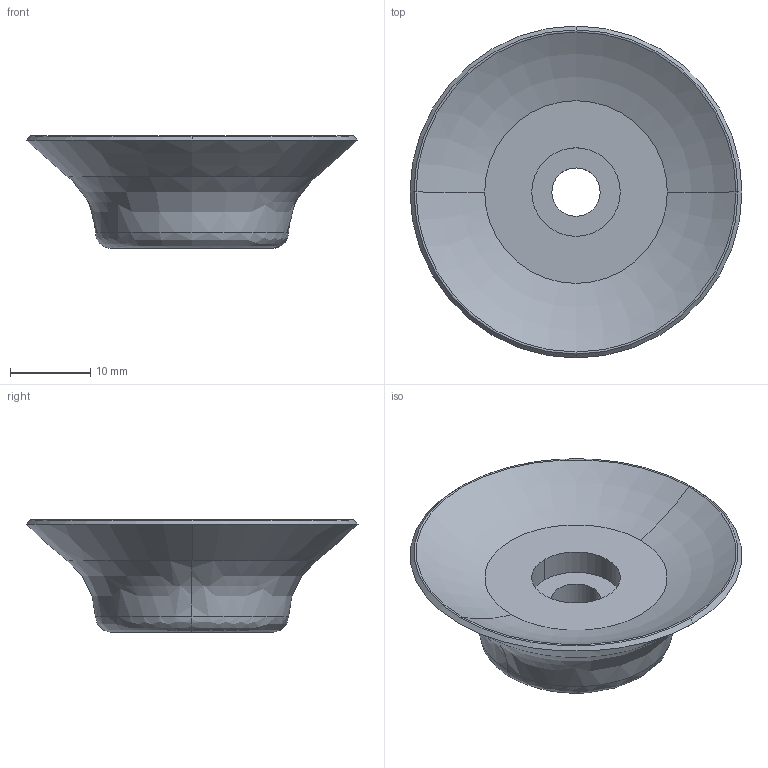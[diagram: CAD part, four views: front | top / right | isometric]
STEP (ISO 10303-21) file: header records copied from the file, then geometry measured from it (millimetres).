
FILE_DESCRIPTION (( 'STEP AP214' ), '1' );
FILE_NAME ('VS-PG40.STEP', '2019-11-13T07:51:31', ( '微软用户' ), ( '微软中国' ), 'SwSTEP 2.0', 'SolidWorks 2016', '' );
FILE_SCHEMA (( 'AUTOMOTIVE_DESIGN' ));
Length unit declared in the file: millimetre
Products named in the file (1): VS-PG40
Bounding box: 41.26 x 41.26 x 14 mm (x, y, z)
Volume: 6227.4 mm3; surface area: 3622.3 mm2
Topology: 1 solids, 1 shells, 19 faces, 42 edges, 26 vertices
Faces by surface type: bspline 8, cylinder 4, plane 3, torus 2, cone 2
Entity records: 660 total; most frequent: CARTESIAN_POINT 238, ORIENTED_EDGE 84, DIRECTION 82, EDGE_CURVE 42, AXIS2_PLACEMENT_3D 38, CIRCLE 26, VERTEX_POINT 26, EDGE_LOOP 22
